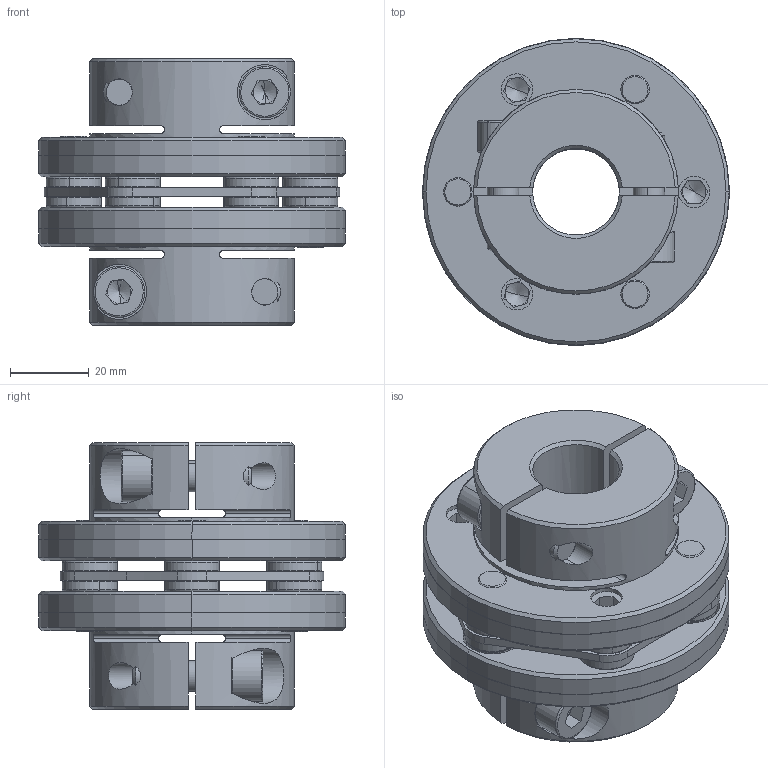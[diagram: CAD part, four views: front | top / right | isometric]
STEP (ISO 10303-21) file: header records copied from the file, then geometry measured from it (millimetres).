
FILE_DESCRIPTION (( 'STEP AP203' ), '1' );
FILE_NAME ('SCDS-78C-TYPE1(22X22).STEP', '2021-12-27T01:29:39', ( '' ), ( '' ), 'SwSTEP 2.0', 'SolidWorks 2021', '' );
FILE_SCHEMA (( 'CONFIG_CONTROL_DESIGN' ));
Length unit declared in the file: millimetre
Products named in the file (1): SCDS-78C-TYPE1(22X22)
Bounding box: 78 x 78 x 67.7 mm (x, y, z)
Volume: 154105.9 mm3; surface area: 54787 mm2
Topology: 1 solids, 13 shells, 645 faces, 1533 edges, 930 vertices
Faces by surface type: cylinder 223, plane 210, cone 116, torus 96
Entity records: 19442 total; most frequent: CARTESIAN_POINT 3973, DIRECTION 3539, ORIENTED_EDGE 3026, EDGE_CURVE 1513, AXIS2_PLACEMENT_3D 1464, VERTEX_POINT 930, CIRCLE 818, EDGE_LOOP 739
